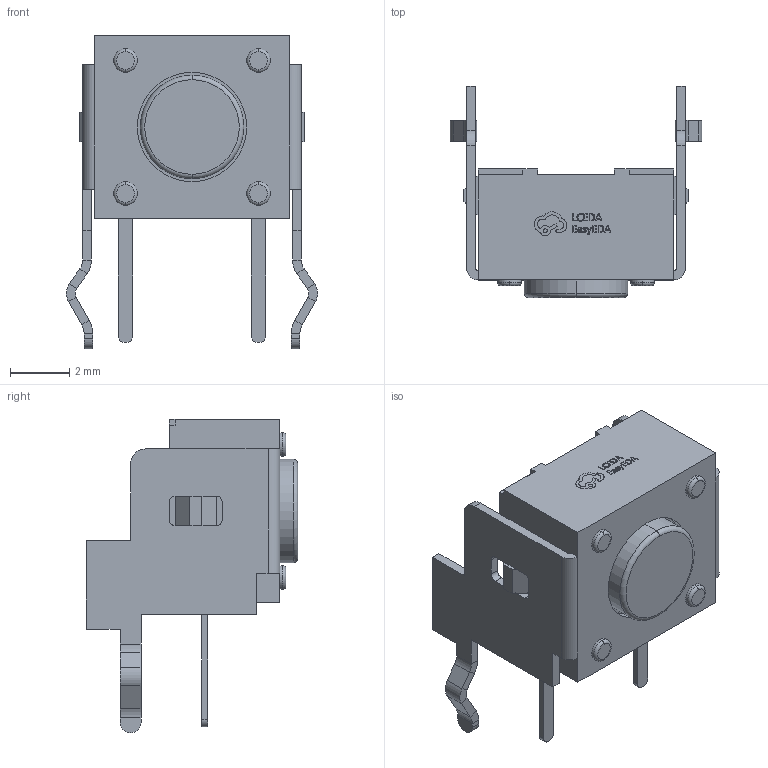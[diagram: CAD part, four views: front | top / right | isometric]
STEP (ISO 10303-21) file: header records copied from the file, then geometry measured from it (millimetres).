
FILE_DESCRIPTION (( 'STEP AP214' ), '1' );
FILE_NAME ('KEY-TH_4P-L7.4-W7.2-H7.1-LS7.0-P4.5.step', '2022-07-02T15:41:03', ( '' ), ( '' ), 'SwSTEP 2.0', 'SolidWorks 2020', '' );
FILE_SCHEMA (( 'AUTOMOTIVE_DESIGN' ));
Length unit declared in the file: millimetre
Products named in the file (1): KEY-TH_4P-L7.4-W7.2-H7.1-LS7.0-P4.5
Bounding box: 8.5 x 7.15 x 10.6 mm (x, y, z)
Volume: 170.8 mm3; surface area: 364.6 mm2
Topology: 1 solids, 1 shells, 484 faces, 1277 edges, 824 vertices
Faces by surface type: plane 316, bspline 112, cylinder 46, torus 10
Entity records: 20682 total; most frequent: CARTESIAN_POINT 4690, ORIENTED_EDGE 2554, DIRECTION 1907, EDGE_CURVE 1277, LINE 937, VECTOR 937, VERTEX_POINT 824, EDGE_LOOP 525
